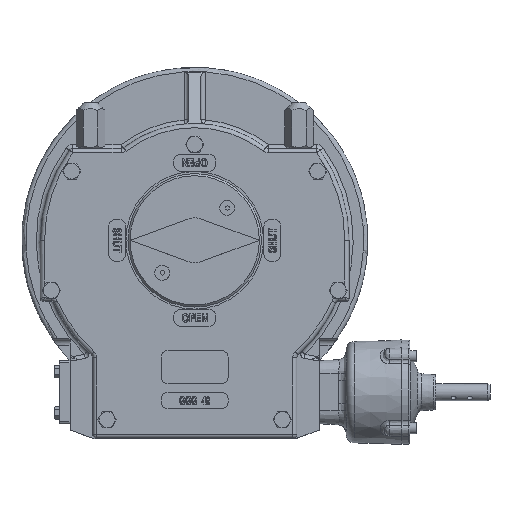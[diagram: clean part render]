
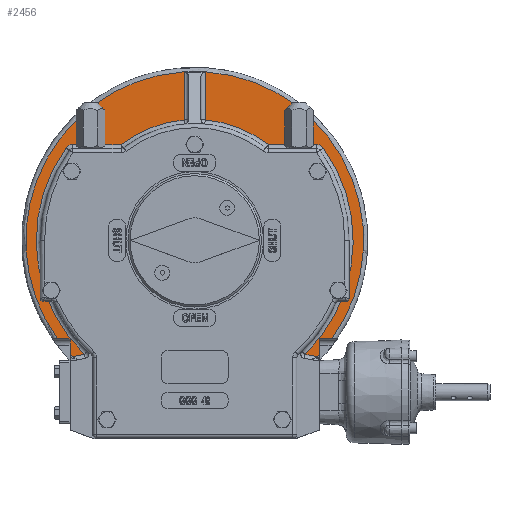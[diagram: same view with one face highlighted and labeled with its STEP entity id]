
A CAD part, top view. The second image highlights one B-rep face of the part: STEP entity #2456.
In plain terms, the highlighted planar face has unit normal (0, 0, 1).
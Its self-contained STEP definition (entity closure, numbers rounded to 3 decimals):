
#2456 = ADVANCED_FACE( '', ( #7300 ), #7301, .F. );
#7300 = FACE_OUTER_BOUND( '', #14950, .T. );
#7301 = PLANE( '', #14951 );
#14950 = EDGE_LOOP( '', ( #31121, #31122, #31123, #31124, #31125, #31126, #31127, #31128, #31129, #31130, #31131, #31132, #31133, #31134, #31135, #31136, #31137, #31138, #31139, #31140 ) );
#14951 = AXIS2_PLACEMENT_3D( '', #31141, #31142, #31143 );
#31121 = ORIENTED_EDGE( '', *, *, #53242, .T. );
#31122 = ORIENTED_EDGE( '', *, *, #53243, .T. );
#31123 = ORIENTED_EDGE( '', *, *, #53244, .T. );
#31124 = ORIENTED_EDGE( '', *, *, #53245, .T. );
#31125 = ORIENTED_EDGE( '', *, *, #53246, .T. );
#31126 = ORIENTED_EDGE( '', *, *, #53247, .T. );
#31127 = ORIENTED_EDGE( '', *, *, #53248, .T. );
#31128 = ORIENTED_EDGE( '', *, *, #53249, .T. );
#31129 = ORIENTED_EDGE( '', *, *, #53250, .F. );
#31130 = ORIENTED_EDGE( '', *, *, #53251, .T. );
#31131 = ORIENTED_EDGE( '', *, *, #53252, .T. );
#31132 = ORIENTED_EDGE( '', *, *, #53253, .T. );
#31133 = ORIENTED_EDGE( '', *, *, #53254, .F. );
#31134 = ORIENTED_EDGE( '', *, *, #53255, .T. );
#31135 = ORIENTED_EDGE( '', *, *, #53256, .T. );
#31136 = ORIENTED_EDGE( '', *, *, #53257, .T. );
#31137 = ORIENTED_EDGE( '', *, *, #53258, .F. );
#31138 = ORIENTED_EDGE( '', *, *, #53259, .T. );
#31139 = ORIENTED_EDGE( '', *, *, #53260, .T. );
#31140 = ORIENTED_EDGE( '', *, *, #53261, .T. );
#31141 = CARTESIAN_POINT( '', ( 0., 0., 56. ) );
#31142 = DIRECTION( '', ( 0., 0., -1. ) );
#31143 = DIRECTION( '', ( -1., 0., 0. ) );
#53242 = EDGE_CURVE( '', #61694, #61695, #61696, .T. );
#53243 = EDGE_CURVE( '', #61695, #61697, #61698, .T. );
#53244 = EDGE_CURVE( '', #61697, #61699, #61700, .F. );
#53245 = EDGE_CURVE( '', #61699, #61701, #61702, .T. );
#53246 = EDGE_CURVE( '', #61701, #61703, #61704, .T. );
#53247 = EDGE_CURVE( '', #61703, #61705, #61706, .F. );
#53248 = EDGE_CURVE( '', #61705, #61707, #61708, .F. );
#53249 = EDGE_CURVE( '', #61707, #61709, #61710, .T. );
#53250 = EDGE_CURVE( '', #61711, #61709, #61712, .F. );
#53251 = EDGE_CURVE( '', #61711, #61713, #61714, .T. );
#53252 = EDGE_CURVE( '', #61713, #61715, #61716, .T. );
#53253 = EDGE_CURVE( '', #61715, #61717, #61718, .F. );
#53254 = EDGE_CURVE( '', #61719, #61717, #61720, .T. );
#53255 = EDGE_CURVE( '', #61719, #61721, #61722, .T. );
#53256 = EDGE_CURVE( '', #61721, #61723, #61724, .T. );
#53257 = EDGE_CURVE( '', #61723, #61725, #61726, .T. );
#53258 = EDGE_CURVE( '', #61727, #61725, #61728, .F. );
#53259 = EDGE_CURVE( '', #61727, #61729, #61730, .T. );
#53260 = EDGE_CURVE( '', #61729, #61731, #61732, .F. );
#53261 = EDGE_CURVE( '', #61731, #61694, #61733, .F. );
#61694 = VERTEX_POINT( '', #74087 );
#61695 = VERTEX_POINT( '', #74088 );
#61696 = LINE( '', #74089, #74090 );
#61697 = VERTEX_POINT( '', #74091 );
#61698 = LINE( '', #74092, #74093 );
#61699 = VERTEX_POINT( '', #74094 );
#61700 = CIRCLE( '', #74095, 202.5 );
#61701 = VERTEX_POINT( '', #74096 );
#61702 = LINE( '', #74097, #74098 );
#61703 = VERTEX_POINT( '', #74099 );
#61704 = LINE( '', #74100, #74101 );
#61705 = VERTEX_POINT( '', #74102 );
#61706 = CIRCLE( '', #74103, 202.5 );
#61707 = VERTEX_POINT( '', #74104 );
#61708 = LINE( '', #74105, #74106 );
#61709 = VERTEX_POINT( '', #74107 );
#61710 = CIRCLE( '', #74108, 190. );
#61711 = VERTEX_POINT( '', #74109 );
#61712 = CIRCLE( '', #74110, 10. );
#61713 = VERTEX_POINT( '', #74111 );
#61714 = LINE( '', #74112, #74113 );
#61715 = VERTEX_POINT( '', #74114 );
#61716 = CIRCLE( '', #74115, 145. );
#61717 = VERTEX_POINT( '', #74116 );
#61718 = LINE( '', #74117, #74118 );
#61719 = VERTEX_POINT( '', #74119 );
#61720 = LINE( '', #74120, #74121 );
#61721 = VERTEX_POINT( '', #74122 );
#61722 = LINE( '', #74123, #74124 );
#61723 = VERTEX_POINT( '', #74125 );
#61724 = CIRCLE( '', #74126, 145. );
#61725 = VERTEX_POINT( '', #74127 );
#61726 = LINE( '', #74128, #74129 );
#61727 = VERTEX_POINT( '', #74130 );
#61728 = CIRCLE( '', #74131, 10. );
#61729 = VERTEX_POINT( '', #74132 );
#61730 = CIRCLE( '', #74133, 190. );
#61731 = VERTEX_POINT( '', #74134 );
#61732 = LINE( '', #74135, #74136 );
#61733 = CIRCLE( '', #74137, 202.5 );
#74087 = CARTESIAN_POINT( '', ( 149.5, -136.587, 56. ) );
#74088 = CARTESIAN_POINT( '', ( 149.5, -118., 56. ) );
#74089 = CARTESIAN_POINT( '', ( 149.5, 0., 56. ) );
#74090 = VECTOR( '', #101540, 1000. );
#74091 = CARTESIAN_POINT( '', ( 164.567, -118., 56. ) );
#74092 = CARTESIAN_POINT( '', ( 0., -118., 56. ) );
#74093 = VECTOR( '', #101541, 1000. );
#74094 = CARTESIAN_POINT( '', ( -164.567, -118., 56. ) );
#74095 = AXIS2_PLACEMENT_3D( '', #101542, #101543, #101544 );
#74096 = CARTESIAN_POINT( '', ( -149.5, -118., 56. ) );
#74097 = CARTESIAN_POINT( '', ( 0., -118., 56. ) );
#74098 = VECTOR( '', #101545, 1000. );
#74099 = CARTESIAN_POINT( '', ( -149.5, -136.587, 56. ) );
#74100 = CARTESIAN_POINT( '', ( -149.5, 0., 56. ) );
#74101 = VECTOR( '', #101546, 1000. );
#74102 = CARTESIAN_POINT( '', ( -147.058, -139.213, 56. ) );
#74103 = AXIS2_PLACEMENT_3D( '', #101547, #101548, #101549 );
#74104 = CARTESIAN_POINT( '', ( -132.089, -136.574, 56. ) );
#74105 = CARTESIAN_POINT( '', ( -122.105, -134.813, 56. ) );
#74106 = VECTOR( '', #101550, 1000. );
#74107 = CARTESIAN_POINT( '', ( -154.324, 110.833, 56. ) );
#74108 = AXIS2_PLACEMENT_3D( '', #101551, #101552, #101553 );
#74109 = CARTESIAN_POINT( '', ( -146.202, 115., 56. ) );
#74110 = AXIS2_PLACEMENT_3D( '', #101554, #101555, #101556 );
#74111 = CARTESIAN_POINT( '', ( -88.318, 115., 56. ) );
#74112 = CARTESIAN_POINT( '', ( 0., 115., 56. ) );
#74113 = VECTOR( '', #101557, 1000. );
#74114 = CARTESIAN_POINT( '', ( -12.5, 144.46, 56. ) );
#74115 = AXIS2_PLACEMENT_3D( '', #101558, #101559, #101560 );
#74116 = CARTESIAN_POINT( '', ( -12.5, 201.5, 56. ) );
#74117 = CARTESIAN_POINT( '', ( -12.5, 201.5, 56. ) );
#74118 = VECTOR( '', #101561, 1000. );
#74119 = CARTESIAN_POINT( '', ( 12.5, 201.5, 56. ) );
#74120 = CARTESIAN_POINT( '', ( 0., 201.5, 56. ) );
#74121 = VECTOR( '', #101562, 1000. );
#74122 = CARTESIAN_POINT( '', ( 12.5, 144.46, 56. ) );
#74123 = CARTESIAN_POINT( '', ( 12.5, 0., 56. ) );
#74124 = VECTOR( '', #101563, 1000. );
#74125 = CARTESIAN_POINT( '', ( 88.318, 115., 56. ) );
#74126 = AXIS2_PLACEMENT_3D( '', #101564, #101565, #101566 );
#74127 = CARTESIAN_POINT( '', ( 146.202, 115., 56. ) );
#74128 = CARTESIAN_POINT( '', ( 0., 115., 56. ) );
#74129 = VECTOR( '', #101567, 1000. );
#74130 = CARTESIAN_POINT( '', ( 154.324, 110.833, 56. ) );
#74131 = AXIS2_PLACEMENT_3D( '', #101568, #101569, #101570 );
#74132 = CARTESIAN_POINT( '', ( 132.089, -136.574, 56. ) );
#74133 = AXIS2_PLACEMENT_3D( '', #101571, #101572, #101573 );
#74134 = CARTESIAN_POINT( '', ( 147.058, -139.213, 56. ) );
#74135 = CARTESIAN_POINT( '', ( 149.686, -139.677, 56. ) );
#74136 = VECTOR( '', #101574, 1000. );
#74137 = AXIS2_PLACEMENT_3D( '', #101575, #101576, #101577 );
#101540 = DIRECTION( '', ( 0., 1., 0. ) );
#101541 = DIRECTION( '', ( 1., 0., 0. ) );
#101542 = CARTESIAN_POINT( '', ( 0., 0., 56. ) );
#101543 = DIRECTION( '', ( 0., 0., -1. ) );
#101544 = DIRECTION( '', ( -1., 0., 0. ) );
#101545 = DIRECTION( '', ( 1., 0., 0. ) );
#101546 = DIRECTION( '', ( 0., -1., 0. ) );
#101547 = CARTESIAN_POINT( '', ( 0., 0., 56. ) );
#101548 = DIRECTION( '', ( 0., 0., -1. ) );
#101549 = DIRECTION( '', ( -1., 0., 0. ) );
#101550 = DIRECTION( '', ( -0.985, -0.174, 0. ) );
#101551 = CARTESIAN_POINT( '', ( 0., 0., 56. ) );
#101552 = DIRECTION( '', ( 0., 0., -1. ) );
#101553 = DIRECTION( '', ( -1., 0., 0. ) );
#101554 = CARTESIAN_POINT( '', ( -146.202, 105., 56. ) );
#101555 = DIRECTION( '', ( 0., 0., -1. ) );
#101556 = DIRECTION( '', ( -1., 0., 0. ) );
#101557 = DIRECTION( '', ( 1., 0., 0. ) );
#101558 = CARTESIAN_POINT( '', ( 0., 0., 56. ) );
#101559 = DIRECTION( '', ( 0., 0., -1. ) );
#101560 = DIRECTION( '', ( -1., 0., 0. ) );
#101561 = DIRECTION( '', ( 0., -1., 0. ) );
#101562 = DIRECTION( '', ( -1., 0., 0. ) );
#101563 = DIRECTION( '', ( 0., -1., 0. ) );
#101564 = CARTESIAN_POINT( '', ( 0., 0., 56. ) );
#101565 = DIRECTION( '', ( 0., 0., -1. ) );
#101566 = DIRECTION( '', ( -1., 0., 0. ) );
#101567 = DIRECTION( '', ( 1., 0., 0. ) );
#101568 = CARTESIAN_POINT( '', ( 146.202, 105., 56. ) );
#101569 = DIRECTION( '', ( 0., 0., -1. ) );
#101570 = DIRECTION( '', ( -1., 0., 0. ) );
#101571 = CARTESIAN_POINT( '', ( 0., 0., 56. ) );
#101572 = DIRECTION( '', ( 0., 0., -1. ) );
#101573 = DIRECTION( '', ( -1., 0., 0. ) );
#101574 = DIRECTION( '', ( -0.985, 0.174, 0. ) );
#101575 = CARTESIAN_POINT( '', ( 0., 0., 56. ) );
#101576 = DIRECTION( '', ( 0., 0., -1. ) );
#101577 = DIRECTION( '', ( -1., 0., 0. ) );
